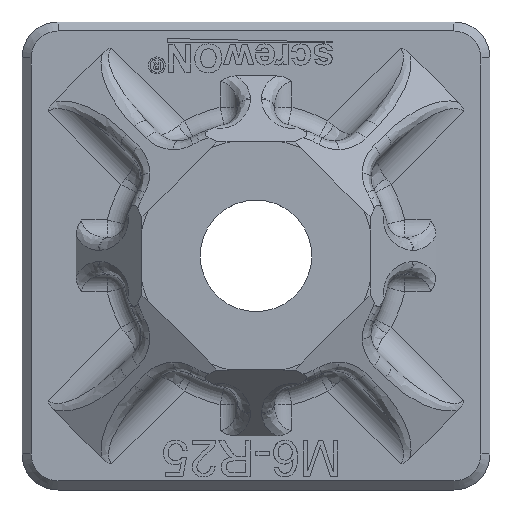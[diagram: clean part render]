
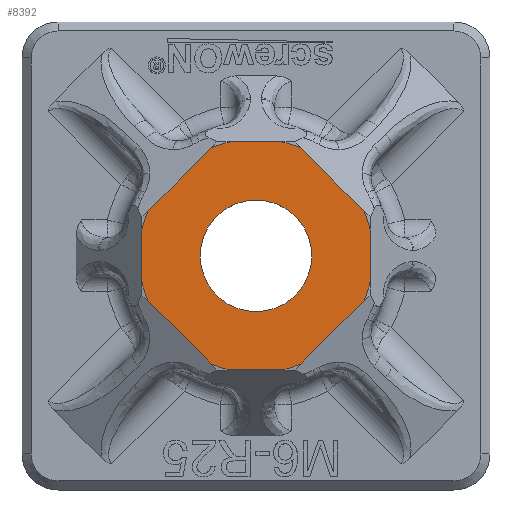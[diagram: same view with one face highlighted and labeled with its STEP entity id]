
A CAD part, top view. The second image highlights one B-rep face of the part: STEP entity #8392.
In plain terms, the highlighted planar face has unit normal (0, 0, 1).
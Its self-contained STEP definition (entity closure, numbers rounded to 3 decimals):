
#307=FACE_BOUND('',#2027,.T.);
#1047=CIRCLE('',#8945,6.5);
#1048=CIRCLE('',#8946,6.5);
#1049=CIRCLE('',#8947,6.5);
#1050=CIRCLE('',#8948,6.5);
#1051=CIRCLE('',#8949,6.5);
#1052=CIRCLE('',#8950,6.5);
#1053=CIRCLE('',#8951,6.5);
#1054=CIRCLE('',#8952,6.5);
#1055=CIRCLE('',#8953,3.1);
#1522=FACE_OUTER_BOUND('',#2026,.T.);
#2026=EDGE_LOOP('',(#7680,#7681,#7682,#7683,#7684,#7685,#7686,#7687,#7688,
#7689,#7690,#7691,#7692,#7693,#7694,#7695));
#2027=EDGE_LOOP('',(#7696));
#2532=LINE('',#15379,#3105);
#2538=LINE('',#15541,#3111);
#2544=LINE('',#15703,#3117);
#2550=LINE('',#15865,#3123);
#2568=LINE('',#16422,#3141);
#2581=LINE('',#16880,#3154);
#2590=LINE('',#17191,#3163);
#2599=LINE('',#17502,#3172);
#3105=VECTOR('',#9823,10.);
#3111=VECTOR('',#9865,10.);
#3117=VECTOR('',#9907,10.);
#3123=VECTOR('',#9949,10.);
#3141=VECTOR('',#10089,10.);
#3154=VECTOR('',#10216,10.);
#3163=VECTOR('',#10299,10.);
#3172=VECTOR('',#10382,10.);
#3782=VERTEX_POINT('',#15373);
#3783=VERTEX_POINT('',#15378);
#3806=VERTEX_POINT('',#15535);
#3807=VERTEX_POINT('',#15540);
#3830=VERTEX_POINT('',#15697);
#3831=VERTEX_POINT('',#15702);
#3854=VERTEX_POINT('',#15859);
#3855=VERTEX_POINT('',#15864);
#3908=VERTEX_POINT('',#16414);
#3909=VERTEX_POINT('',#16421);
#3940=VERTEX_POINT('',#16872);
#3941=VERTEX_POINT('',#16879);
#3962=VERTEX_POINT('',#17183);
#3963=VERTEX_POINT('',#17190);
#3984=VERTEX_POINT('',#17494);
#3985=VERTEX_POINT('',#17501);
#3986=VERTEX_POINT('',#17967);
#4854=EDGE_CURVE('',#3782,#3783,#2532,.T.);
#4884=EDGE_CURVE('',#3806,#3807,#2538,.T.);
#4914=EDGE_CURVE('',#3830,#3831,#2544,.T.);
#4944=EDGE_CURVE('',#3854,#3855,#2550,.T.);
#5028=EDGE_CURVE('',#3908,#3909,#2568,.T.);
#5092=EDGE_CURVE('',#3940,#3941,#2581,.T.);
#5135=EDGE_CURVE('',#3962,#3963,#2590,.T.);
#5178=EDGE_CURVE('',#3984,#3985,#2599,.T.);
#5228=EDGE_CURVE('',#3985,#3830,#1047,.T.);
#5229=EDGE_CURVE('',#3855,#3984,#1048,.T.);
#5230=EDGE_CURVE('',#3909,#3854,#1049,.T.);
#5231=EDGE_CURVE('',#3783,#3908,#1050,.T.);
#5232=EDGE_CURVE('',#3941,#3782,#1051,.T.);
#5233=EDGE_CURVE('',#3807,#3940,#1052,.T.);
#5234=EDGE_CURVE('',#3963,#3806,#1053,.T.);
#5235=EDGE_CURVE('',#3831,#3962,#1054,.T.);
#5236=EDGE_CURVE('',#3986,#3986,#1055,.T.);
#7680=ORIENTED_EDGE('',*,*,#4914,.F.);
#7681=ORIENTED_EDGE('',*,*,#5228,.F.);
#7682=ORIENTED_EDGE('',*,*,#5178,.F.);
#7683=ORIENTED_EDGE('',*,*,#5229,.F.);
#7684=ORIENTED_EDGE('',*,*,#4944,.F.);
#7685=ORIENTED_EDGE('',*,*,#5230,.F.);
#7686=ORIENTED_EDGE('',*,*,#5028,.F.);
#7687=ORIENTED_EDGE('',*,*,#5231,.F.);
#7688=ORIENTED_EDGE('',*,*,#4854,.F.);
#7689=ORIENTED_EDGE('',*,*,#5232,.F.);
#7690=ORIENTED_EDGE('',*,*,#5092,.F.);
#7691=ORIENTED_EDGE('',*,*,#5233,.F.);
#7692=ORIENTED_EDGE('',*,*,#4884,.F.);
#7693=ORIENTED_EDGE('',*,*,#5234,.F.);
#7694=ORIENTED_EDGE('',*,*,#5135,.F.);
#7695=ORIENTED_EDGE('',*,*,#5235,.F.);
#7696=ORIENTED_EDGE('',*,*,#5236,.T.);
#7922=PLANE('',#8944);
#8392=ADVANCED_FACE('',(#1522,#307),#7922,.T.);
#8944=AXIS2_PLACEMENT_3D('',#17958,#10561,#10562);
#8945=AXIS2_PLACEMENT_3D('',#17959,#10563,#10564);
#8946=AXIS2_PLACEMENT_3D('',#17960,#10565,#10566);
#8947=AXIS2_PLACEMENT_3D('',#17961,#10567,#10568);
#8948=AXIS2_PLACEMENT_3D('',#17962,#10569,#10570);
#8949=AXIS2_PLACEMENT_3D('',#17963,#10571,#10572);
#8950=AXIS2_PLACEMENT_3D('',#17964,#10573,#10574);
#8951=AXIS2_PLACEMENT_3D('',#17965,#10575,#10576);
#8952=AXIS2_PLACEMENT_3D('',#17966,#10577,#10578);
#8953=AXIS2_PLACEMENT_3D('',#17968,#10579,#10580);
#9823=DIRECTION('',(1.,0.,0.));
#9865=DIRECTION('',(0.,1.,0.));
#9907=DIRECTION('',(-1.,0.,0.));
#9949=DIRECTION('',(0.,-1.,0.));
#10089=DIRECTION('',(0.707,-0.707,0.));
#10216=DIRECTION('',(0.707,0.707,0.));
#10299=DIRECTION('',(-0.707,0.707,0.));
#10382=DIRECTION('',(-0.707,-0.707,0.));
#10561=DIRECTION('center_axis',(0.,0.,1.));
#10562=DIRECTION('ref_axis',(1.,0.,0.));
#10563=DIRECTION('center_axis',(0.,0.,-1.));
#10564=DIRECTION('ref_axis',(1.,0.,0.));
#10565=DIRECTION('center_axis',(0.,0.,-1.));
#10566=DIRECTION('ref_axis',(1.,0.,0.));
#10567=DIRECTION('center_axis',(0.,0.,-1.));
#10568=DIRECTION('ref_axis',(1.,0.,0.));
#10569=DIRECTION('center_axis',(0.,0.,-1.));
#10570=DIRECTION('ref_axis',(1.,0.,0.));
#10571=DIRECTION('center_axis',(0.,0.,-1.));
#10572=DIRECTION('ref_axis',(1.,0.,0.));
#10573=DIRECTION('center_axis',(0.,0.,-1.));
#10574=DIRECTION('ref_axis',(1.,0.,0.));
#10575=DIRECTION('center_axis',(0.,0.,-1.));
#10576=DIRECTION('ref_axis',(1.,0.,0.));
#10577=DIRECTION('center_axis',(0.,0.,-1.));
#10578=DIRECTION('ref_axis',(1.,0.,0.));
#10579=DIRECTION('center_axis',(0.,0.,-1.));
#10580=DIRECTION('ref_axis',(-1.,0.,0.));
#15373=CARTESIAN_POINT('',(-1.433,6.34,5.1));
#15378=CARTESIAN_POINT('',(1.433,6.34,5.1));
#15379=CARTESIAN_POINT('',(-0.5,6.34,5.1));
#15535=CARTESIAN_POINT('',(-6.34,-1.433,5.1));
#15540=CARTESIAN_POINT('',(-6.34,1.433,5.1));
#15541=CARTESIAN_POINT('',(-6.34,-0.5,5.1));
#15697=CARTESIAN_POINT('',(1.433,-6.34,5.1));
#15702=CARTESIAN_POINT('',(-1.433,-6.34,5.1));
#15703=CARTESIAN_POINT('',(0.5,-6.34,5.1));
#15859=CARTESIAN_POINT('',(6.34,1.433,5.1));
#15864=CARTESIAN_POINT('',(6.34,-1.433,5.1));
#15865=CARTESIAN_POINT('',(6.34,0.5,5.1));
#16414=CARTESIAN_POINT('',(2.475,6.01,5.1));
#16421=CARTESIAN_POINT('',(6.01,2.475,5.1));
#16422=CARTESIAN_POINT('',(3.889,4.596,5.1));
#16872=CARTESIAN_POINT('',(-6.01,2.475,5.1));
#16879=CARTESIAN_POINT('',(-2.475,6.01,5.1));
#16880=CARTESIAN_POINT('',(-4.596,3.889,5.1));
#17183=CARTESIAN_POINT('',(-2.475,-6.01,5.1));
#17190=CARTESIAN_POINT('',(-6.01,-2.475,5.1));
#17191=CARTESIAN_POINT('',(-3.889,-4.596,5.1));
#17494=CARTESIAN_POINT('',(6.01,-2.475,5.1));
#17501=CARTESIAN_POINT('',(2.475,-6.01,5.1));
#17502=CARTESIAN_POINT('',(4.596,-3.889,5.1));
#17958=CARTESIAN_POINT('Origin',(0.,0.,5.1));
#17959=CARTESIAN_POINT('Origin',(0.,0.,5.1));
#17960=CARTESIAN_POINT('Origin',(0.,0.,5.1));
#17961=CARTESIAN_POINT('Origin',(0.,0.,5.1));
#17962=CARTESIAN_POINT('Origin',(0.,0.,5.1));
#17963=CARTESIAN_POINT('Origin',(0.,0.,5.1));
#17964=CARTESIAN_POINT('Origin',(0.,0.,5.1));
#17965=CARTESIAN_POINT('Origin',(0.,0.,5.1));
#17966=CARTESIAN_POINT('Origin',(0.,0.,5.1));
#17967=CARTESIAN_POINT('',(3.1,0.,5.1));
#17968=CARTESIAN_POINT('Origin',(0.,0.,5.1));
